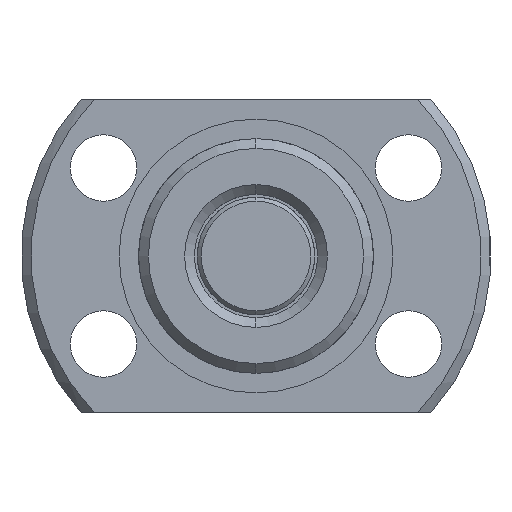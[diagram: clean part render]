
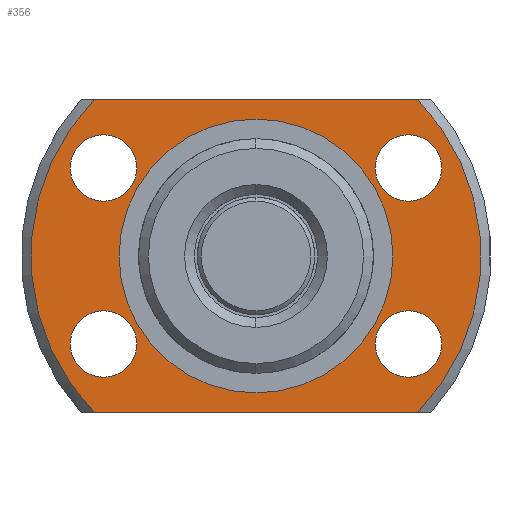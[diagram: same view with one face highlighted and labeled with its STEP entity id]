
A CAD part, left-side view. The second image highlights one B-rep face of the part: STEP entity #356.
In plain terms, the highlighted planar face has unit normal (-1, 0, 0).
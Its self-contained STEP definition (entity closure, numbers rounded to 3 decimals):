
#9 = CIRCLE ( 'NONE', #820, 7. ) ;
#15 = CIRCLE ( 'NONE', #818, 1.7 ) ;
#21 = CIRCLE ( 'NONE', #816, 1.7 ) ;
#27 = CIRCLE ( 'NONE', #814, 1.7 ) ;
#33 = CIRCLE ( 'NONE', #812, 1.7 ) ;
#244 = AXIS2_PLACEMENT_3D ( 'NONE', #3223, #3228, #3222 ) ;
#356 = ADVANCED_FACE ( 'NONE', ( #3765, #3766, #3778, #3776, #3763, #3767 ), #3226, .T. ) ;
#461 = DIRECTION ( 'NONE',  ( 0., 0., 1. ) ) ;
#462 = DIRECTION ( 'NONE',  ( -1., 0., 0. ) ) ;
#463 = CARTESIAN_POINT ( 'NONE',  ( -3., 7.794, -4.5 ) ) ;
#471 = DIRECTION ( 'NONE',  ( 0., 0., 1. ) ) ;
#472 = DIRECTION ( 'NONE',  ( -1., 0., 0. ) ) ;
#473 = CARTESIAN_POINT ( 'NONE',  ( -3., 7.794, 4.5 ) ) ;
#481 = DIRECTION ( 'NONE',  ( 0., 0., 1. ) ) ;
#482 = DIRECTION ( 'NONE',  ( -1., 0., 0. ) ) ;
#483 = CARTESIAN_POINT ( 'NONE',  ( -3., -7.794, 4.5 ) ) ;
#491 = DIRECTION ( 'NONE',  ( 0., 0., 1. ) ) ;
#492 = DIRECTION ( 'NONE',  ( -1., 0., 0. ) ) ;
#493 = CARTESIAN_POINT ( 'NONE',  ( -3., -7.794, -4.5 ) ) ;
#512 = CIRCLE ( 'NONE', #770, 7. ) ;
#527 = CIRCLE ( 'NONE', #768, 11.5 ) ;
#572 = CIRCLE ( 'NONE', #769, 1.7 ) ;
#575 = CIRCLE ( 'NONE', #767, 11.5 ) ;
#579 = CIRCLE ( 'NONE', #771, 1.7 ) ;
#583 = EDGE_CURVE ( 'NONE', #1026, #1024, #3608, .T. ) ;
#584 = EDGE_CURVE ( 'NONE', #1032, #1031, #3613, .T. ) ;
#585 = EDGE_CURVE ( 'NONE', #4016, #3987, #3602, .T. ) ;
#586 = EDGE_CURVE ( 'NONE', #4010, #3980, #3604, .T. ) ;
#628 = EDGE_LOOP ( 'NONE', ( #2150, #2149 ) ) ;
#740 = AXIS2_PLACEMENT_3D ( 'NONE', #2746, #2744, #2739 ) ;
#741 = AXIS2_PLACEMENT_3D ( 'NONE', #2764, #2734, #2731 ) ;
#767 = AXIS2_PLACEMENT_3D ( 'NONE', #2587, #2586, #2584 ) ;
#768 = AXIS2_PLACEMENT_3D ( 'NONE', #2573, #2572, #2570 ) ;
#769 = AXIS2_PLACEMENT_3D ( 'NONE', #2557, #2555, #2554 ) ;
#770 = AXIS2_PLACEMENT_3D ( 'NONE', #2550, #2549, #2548 ) ;
#771 = AXIS2_PLACEMENT_3D ( 'NONE', #2543, #2541, #2540 ) ;
#812 = AXIS2_PLACEMENT_3D ( 'NONE', #493, #492, #491 ) ;
#814 = AXIS2_PLACEMENT_3D ( 'NONE', #483, #482, #481 ) ;
#816 = AXIS2_PLACEMENT_3D ( 'NONE', #473, #472, #471 ) ;
#818 = AXIS2_PLACEMENT_3D ( 'NONE', #463, #462, #461 ) ;
#820 = AXIS2_PLACEMENT_3D ( 'NONE', #1424, #1423, #1422 ) ;
#1024 = VERTEX_POINT ( 'NONE', #2696 ) ;
#1026 = VERTEX_POINT ( 'NONE', #2693 ) ;
#1031 = VERTEX_POINT ( 'NONE', #2687 ) ;
#1032 = VERTEX_POINT ( 'NONE', #2686 ) ;
#1162 = EDGE_CURVE ( 'NONE', #1032, #1024, #575, .T. ) ;
#1164 = EDGE_CURVE ( 'NONE', #1026, #1031, #527, .T. ) ;
#1167 = EDGE_CURVE ( 'NONE', #3992, #3972, #572, .T. ) ;
#1168 = EDGE_CURVE ( 'NONE', #4008, #4007, #512, .T. ) ;
#1169 = EDGE_CURVE ( 'NONE', #4017, #3979, #579, .T. ) ;
#1380 = CARTESIAN_POINT ( 'NONE',  ( -3., -7.794, -6.2 ) ) ;
#1382 = CARTESIAN_POINT ( 'NONE',  ( -3., 7.794, 2.8 ) ) ;
#1391 = CARTESIAN_POINT ( 'NONE',  ( -3., -7.794, 2.8 ) ) ;
#1409 = CARTESIAN_POINT ( 'NONE',  ( -3., 7.794, -6.2 ) ) ;
#1422 = DIRECTION ( 'NONE',  ( 0., 0., -1. ) ) ;
#1423 = DIRECTION ( 'NONE',  ( 1., 0., 0. ) ) ;
#1424 = CARTESIAN_POINT ( 'NONE',  ( -3., 0., 0. ) ) ;
#2149 = ORIENTED_EDGE ( 'NONE', *, *, #586, .F. ) ;
#2150 = ORIENTED_EDGE ( 'NONE', *, *, #3543, .F. ) ;
#2151 = ORIENTED_EDGE ( 'NONE', *, *, #585, .F. ) ;
#2152 = ORIENTED_EDGE ( 'NONE', *, *, #3555, .F. ) ;
#2153 = ORIENTED_EDGE ( 'NONE', *, *, #1164, .F. ) ;
#2154 = ORIENTED_EDGE ( 'NONE', *, *, #584, .T. ) ;
#2155 = ORIENTED_EDGE ( 'NONE', *, *, #1162, .F. ) ;
#2156 = ORIENTED_EDGE ( 'NONE', *, *, #583, .T. ) ;
#2157 = ORIENTED_EDGE ( 'NONE', *, *, #1169, .F. ) ;
#2158 = ORIENTED_EDGE ( 'NONE', *, *, #3551, .F. ) ;
#2159 = ORIENTED_EDGE ( 'NONE', *, *, #3559, .T. ) ;
#2160 = ORIENTED_EDGE ( 'NONE', *, *, #1168, .T. ) ;
#2161 = ORIENTED_EDGE ( 'NONE', *, *, #1167, .F. ) ;
#2162 = ORIENTED_EDGE ( 'NONE', *, *, #3547, .F. ) ;
#2540 = DIRECTION ( 'NONE',  ( 0., 0., 1. ) ) ;
#2541 = DIRECTION ( 'NONE',  ( -1., 0., 0. ) ) ;
#2543 = CARTESIAN_POINT ( 'NONE',  ( -3., 7.794, 4.5 ) ) ;
#2548 = DIRECTION ( 'NONE',  ( 0., 0., -1. ) ) ;
#2549 = DIRECTION ( 'NONE',  ( 1., 0., 0. ) ) ;
#2550 = CARTESIAN_POINT ( 'NONE',  ( -3., 0., 0. ) ) ;
#2554 = DIRECTION ( 'NONE',  ( 0., 0., 1. ) ) ;
#2555 = DIRECTION ( 'NONE',  ( -1., 0., 0. ) ) ;
#2557 = CARTESIAN_POINT ( 'NONE',  ( -3., -7.794, 4.5 ) ) ;
#2570 = DIRECTION ( 'NONE',  ( 0., 0., -1. ) ) ;
#2572 = DIRECTION ( 'NONE',  ( 1., 0., 0. ) ) ;
#2573 = CARTESIAN_POINT ( 'NONE',  ( -3., 0., 0. ) ) ;
#2584 = DIRECTION ( 'NONE',  ( 0., 0., -1. ) ) ;
#2586 = DIRECTION ( 'NONE',  ( 1., 0., 0. ) ) ;
#2587 = CARTESIAN_POINT ( 'NONE',  ( -3., 0., 0. ) ) ;
#2686 = CARTESIAN_POINT ( 'NONE',  ( -3., -8.261, 8. ) ) ;
#2687 = CARTESIAN_POINT ( 'NONE',  ( -3., 8.261, 8. ) ) ;
#2693 = CARTESIAN_POINT ( 'NONE',  ( -3., 8.261, -8. ) ) ;
#2696 = CARTESIAN_POINT ( 'NONE',  ( -3., -8.261, -8. ) ) ;
#2731 = DIRECTION ( 'NONE',  ( 0., 0., 1. ) ) ;
#2734 = DIRECTION ( 'NONE',  ( -1., 0., 0. ) ) ;
#2739 = DIRECTION ( 'NONE',  ( 0., 0., 1. ) ) ;
#2744 = DIRECTION ( 'NONE',  ( -1., 0., 0. ) ) ;
#2746 = CARTESIAN_POINT ( 'NONE',  ( -3., 7.794, -4.5 ) ) ;
#2764 = CARTESIAN_POINT ( 'NONE',  ( -3., -7.794, -4.5 ) ) ;
#2771 = DIRECTION ( 'NONE',  ( 0., 1., 0. ) ) ;
#2773 = DIRECTION ( 'NONE',  ( 0., -1., 0. ) ) ;
#2775 = CARTESIAN_POINT ( 'NONE',  ( -3., 11.5, -8. ) ) ;
#2794 = CARTESIAN_POINT ( 'NONE',  ( -3., 11.5, 8. ) ) ;
#3222 = DIRECTION ( 'NONE',  ( 0., 0., 1. ) ) ;
#3223 = CARTESIAN_POINT ( 'NONE',  ( -3., 11.5, 0. ) ) ;
#3226 = PLANE ( 'NONE',  #244 ) ;
#3228 = DIRECTION ( 'NONE',  ( -1., 0., 0. ) ) ;
#3339 = CARTESIAN_POINT ( 'NONE',  ( -3., -7.794, 6.2 ) ) ;
#3363 = CARTESIAN_POINT ( 'NONE',  ( -3., 0., 7. ) ) ;
#3364 = CARTESIAN_POINT ( 'NONE',  ( -3., 0., -7. ) ) ;
#3368 = CARTESIAN_POINT ( 'NONE',  ( -3., -7.794, -2.8 ) ) ;
#3376 = CARTESIAN_POINT ( 'NONE',  ( -3., 7.794, -2.8 ) ) ;
#3379 = CARTESIAN_POINT ( 'NONE',  ( -3., 7.794, 6.2 ) ) ;
#3543 = EDGE_CURVE ( 'NONE', #3980, #4010, #33, .T. ) ;
#3547 = EDGE_CURVE ( 'NONE', #3972, #3992, #27, .T. ) ;
#3551 = EDGE_CURVE ( 'NONE', #3979, #4017, #21, .T. ) ;
#3555 = EDGE_CURVE ( 'NONE', #3987, #4016, #15, .T. ) ;
#3559 = EDGE_CURVE ( 'NONE', #4007, #4008, #9, .T. ) ;
#3601 = VECTOR ( 'NONE', #2771, 1000. ) ;
#3602 = CIRCLE ( 'NONE', #740, 1.7 ) ;
#3603 = VECTOR ( 'NONE', #2773, 1000. ) ;
#3604 = CIRCLE ( 'NONE', #741, 1.7 ) ;
#3608 = LINE ( 'NONE', #2775, #3603 ) ;
#3613 = LINE ( 'NONE', #2794, #3601 ) ;
#3763 = FACE_BOUND ( 'NONE', #4117, .T. ) ;
#3765 = FACE_BOUND ( 'NONE', #4084, .T. ) ;
#3766 = FACE_BOUND ( 'NONE', #4094, .T. ) ;
#3767 = FACE_BOUND ( 'NONE', #628, .T. ) ;
#3776 = FACE_OUTER_BOUND ( 'NONE', #4106, .T. ) ;
#3778 = FACE_BOUND ( 'NONE', #4107, .T. ) ;
#3972 = VERTEX_POINT ( 'NONE', #1391 ) ;
#3979 = VERTEX_POINT ( 'NONE', #1382 ) ;
#3980 = VERTEX_POINT ( 'NONE', #1380 ) ;
#3987 = VERTEX_POINT ( 'NONE', #1409 ) ;
#3992 = VERTEX_POINT ( 'NONE', #3339 ) ;
#4007 = VERTEX_POINT ( 'NONE', #3363 ) ;
#4008 = VERTEX_POINT ( 'NONE', #3364 ) ;
#4010 = VERTEX_POINT ( 'NONE', #3368 ) ;
#4016 = VERTEX_POINT ( 'NONE', #3376 ) ;
#4017 = VERTEX_POINT ( 'NONE', #3379 ) ;
#4084 = EDGE_LOOP ( 'NONE', ( #2162, #2161 ) ) ;
#4094 = EDGE_LOOP ( 'NONE', ( #2160, #2159 ) ) ;
#4106 = EDGE_LOOP ( 'NONE', ( #2156, #2155, #2154, #2153 ) ) ;
#4107 = EDGE_LOOP ( 'NONE', ( #2158, #2157 ) ) ;
#4117 = EDGE_LOOP ( 'NONE', ( #2152, #2151 ) ) ;
